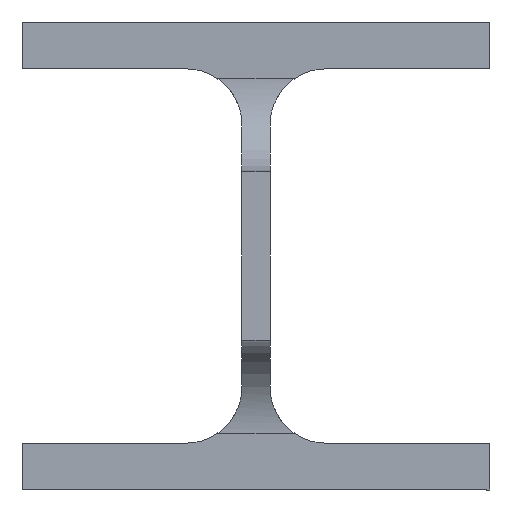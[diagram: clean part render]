
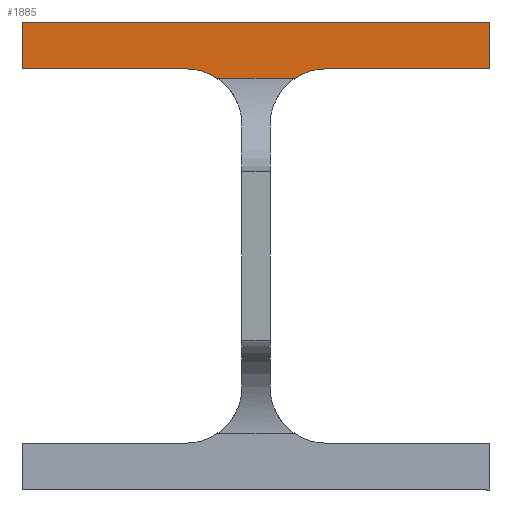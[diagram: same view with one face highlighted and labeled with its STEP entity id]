
A CAD part, front view. The second image highlights one B-rep face of the part: STEP entity #1885.
In plain terms, the highlighted planar face has unit normal (0, -1, 0).
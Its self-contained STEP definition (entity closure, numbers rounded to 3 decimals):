
#113 = VECTOR ( 'NONE', #2430, 1000. ) ;
#292 = CARTESIAN_POINT ( 'NONE',  ( 11050., 52., 2380. ) ) ;
#380 = VERTEX_POINT ( 'NONE', #2817 ) ;
#396 = CARTESIAN_POINT ( 'NONE',  ( 11050., 52., 2380. ) ) ;
#402 = PLANE ( 'NONE',  #3220 ) ;
#409 = VERTEX_POINT ( 'NONE', #292 ) ;
#422 = LINE ( 'NONE', #1496, #3552 ) ;
#432 = DIRECTION ( 'NONE',  ( -1., 0., 0. ) ) ;
#501 = CARTESIAN_POINT ( 'NONE',  ( 11015., 52., 2380. ) ) ;
#522 = AXIS2_PLACEMENT_3D ( 'NONE', #900, #2903, #1995 ) ;
#721 = CIRCLE ( 'NONE', #1409, 12. ) ;
#774 = EDGE_CURVE ( 'NONE', #1574, #409, #1584, .T. ) ;
#780 = ORIENTED_EDGE ( 'NONE', *, *, #3478, .T. ) ;
#793 = VERTEX_POINT ( 'NONE', #3016 ) ;
#821 = CARTESIAN_POINT ( 'NONE',  ( 11050., 52., 2390. ) ) ;
#900 = CARTESIAN_POINT ( 'NONE',  ( 10985., 52., 2368. ) ) ;
#927 = CARTESIAN_POINT ( 'NONE',  ( 11000., 52., 2390. ) ) ;
#944 = EDGE_CURVE ( 'NONE', #2562, #1918, #422, .T. ) ;
#1116 = CARTESIAN_POINT ( 'NONE',  ( 11008.367, 52., 2378. ) ) ;
#1156 = EDGE_CURVE ( 'NONE', #1918, #793, #1932, .T. ) ;
#1268 = CIRCLE ( 'NONE', #522, 12. ) ;
#1269 = DIRECTION ( 'NONE',  ( 0., 1., 0. ) ) ;
#1283 = VERTEX_POINT ( 'NONE', #2347 ) ;
#1409 = AXIS2_PLACEMENT_3D ( 'NONE', #1539, #1269, #3467 ) ;
#1491 = DIRECTION ( 'NONE',  ( 0., 0., 1. ) ) ;
#1496 = CARTESIAN_POINT ( 'NONE',  ( 10950., 52., 2390. ) ) ;
#1498 = ORIENTED_EDGE ( 'NONE', *, *, #2123, .T. ) ;
#1538 = ORIENTED_EDGE ( 'NONE', *, *, #2216, .F. ) ;
#1539 = CARTESIAN_POINT ( 'NONE',  ( 11015., 52., 2368. ) ) ;
#1574 = VERTEX_POINT ( 'NONE', #501 ) ;
#1584 = LINE ( 'NONE', #2969, #113 ) ;
#1624 = ORIENTED_EDGE ( 'NONE', *, *, #774, .T. ) ;
#1648 = EDGE_LOOP ( 'NONE', ( #2958, #1538, #2220, #1624, #1498, #780, #2211, #3480 ) ) ;
#1715 = EDGE_CURVE ( 'NONE', #793, #380, #1268, .T. ) ;
#1856 = CARTESIAN_POINT ( 'NONE',  ( 11000., 52., 2378. ) ) ;
#1885 = ADVANCED_FACE ( 'NONE', ( #3166 ), #402, .T. ) ;
#1918 = VERTEX_POINT ( 'NONE', #2080 ) ;
#1930 = DIRECTION ( 'NONE',  ( -1., 0., 0. ) ) ;
#1932 = LINE ( 'NONE', #2530, #2209 ) ;
#1995 = DIRECTION ( 'NONE',  ( 0., 0., -1. ) ) ;
#2080 = CARTESIAN_POINT ( 'NONE',  ( 10950., 52., 2380. ) ) ;
#2123 = EDGE_CURVE ( 'NONE', #409, #1283, #2905, .T. ) ;
#2209 = VECTOR ( 'NONE', #3377, 1000. ) ;
#2211 = ORIENTED_EDGE ( 'NONE', *, *, #944, .T. ) ;
#2216 = EDGE_CURVE ( 'NONE', #3069, #380, #3279, .T. ) ;
#2220 = ORIENTED_EDGE ( 'NONE', *, *, #2843, .T. ) ;
#2229 = CARTESIAN_POINT ( 'NONE',  ( 10950., 52., 2390. ) ) ;
#2300 = DIRECTION ( 'NONE',  ( 0., 0., -1. ) ) ;
#2340 = DIRECTION ( 'NONE',  ( 0., -1., 0. ) ) ;
#2347 = CARTESIAN_POINT ( 'NONE',  ( 11050., 52., 2390. ) ) ;
#2430 = DIRECTION ( 'NONE',  ( 1., 0., 0. ) ) ;
#2431 = VECTOR ( 'NONE', #432, 1000. ) ;
#2495 = VECTOR ( 'NONE', #1930, 1000. ) ;
#2530 = CARTESIAN_POINT ( 'NONE',  ( 10950., 52., 2380. ) ) ;
#2562 = VERTEX_POINT ( 'NONE', #2229 ) ;
#2817 = CARTESIAN_POINT ( 'NONE',  ( 10991.633, 52., 2378. ) ) ;
#2843 = EDGE_CURVE ( 'NONE', #3069, #1574, #721, .T. ) ;
#2903 = DIRECTION ( 'NONE',  ( 0., 1., 0. ) ) ;
#2905 = LINE ( 'NONE', #396, #3543 ) ;
#2946 = DIRECTION ( 'NONE',  ( 0., 0., -1. ) ) ;
#2958 = ORIENTED_EDGE ( 'NONE', *, *, #1715, .T. ) ;
#2969 = CARTESIAN_POINT ( 'NONE',  ( 11015., 52., 2380. ) ) ;
#3016 = CARTESIAN_POINT ( 'NONE',  ( 10985., 52., 2380. ) ) ;
#3024 = LINE ( 'NONE', #821, #2495 ) ;
#3069 = VERTEX_POINT ( 'NONE', #1116 ) ;
#3166 = FACE_OUTER_BOUND ( 'NONE', #1648, .T. ) ;
#3220 = AXIS2_PLACEMENT_3D ( 'NONE', #927, #2340, #2300 ) ;
#3279 = LINE ( 'NONE', #1856, #2431 ) ;
#3377 = DIRECTION ( 'NONE',  ( 1., 0., 0. ) ) ;
#3467 = DIRECTION ( 'NONE',  ( 0., 0., -1. ) ) ;
#3478 = EDGE_CURVE ( 'NONE', #1283, #2562, #3024, .T. ) ;
#3480 = ORIENTED_EDGE ( 'NONE', *, *, #1156, .T. ) ;
#3543 = VECTOR ( 'NONE', #1491, 1000. ) ;
#3552 = VECTOR ( 'NONE', #2946, 1000. ) ;
